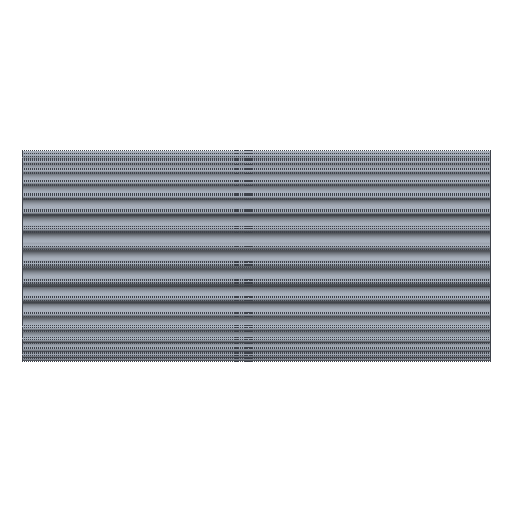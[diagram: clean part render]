
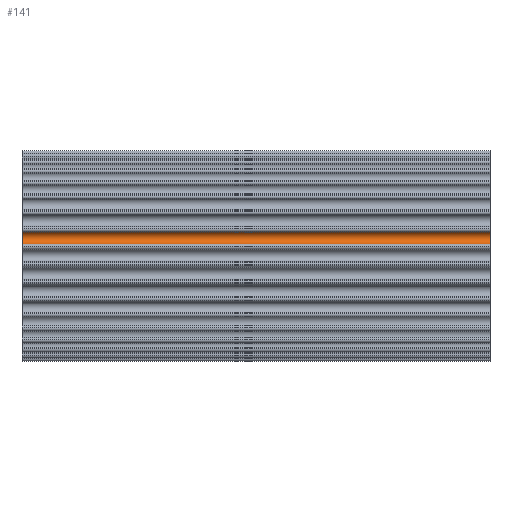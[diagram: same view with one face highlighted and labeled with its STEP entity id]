
A CAD part, top view. The second image highlights one B-rep face of the part: STEP entity #141.
In plain terms, the highlighted cylindrical face has radius 2.629 mm (diameter 5.258 mm), a partial arc.
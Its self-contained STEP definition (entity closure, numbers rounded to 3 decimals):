
#141 = ADVANCED_FACE( '', ( #426 ), #427, .F. );
#426 = FACE_OUTER_BOUND( '', #862, .T. );
#427 = CYLINDRICAL_SURFACE( '', #863, 2.629 );
#862 = EDGE_LOOP( '', ( #2052, #2053, #2054, #2055 ) );
#863 = AXIS2_PLACEMENT_3D( '', #2056, #2057, #2058 );
#2052 = ORIENTED_EDGE( '', *, *, #3389, .T. );
#2053 = ORIENTED_EDGE( '', *, *, #3619, .F. );
#2054 = ORIENTED_EDGE( '', *, *, #3292, .F. );
#2055 = ORIENTED_EDGE( '', *, *, #3618, .T. );
#2056 = CARTESIAN_POINT( '', ( 0., 7.671, 43.504 ) );
#2057 = DIRECTION( '', ( -1., 0., 0. ) );
#2058 = DIRECTION( '', ( 0., 0.985, -0.174 ) );
#3292 = EDGE_CURVE( '', #4112, #4114, #4115, .T. );
#3389 = EDGE_CURVE( '', #4302, #4300, #4303, .T. );
#3618 = EDGE_CURVE( '', #4112, #4302, #4698, .T. );
#3619 = EDGE_CURVE( '', #4114, #4300, #4699, .T. );
#4112 = VERTEX_POINT( '', #5253 );
#4114 = VERTEX_POINT( '', #5256 );
#4115 = CIRCLE( '', #5257, 2.629 );
#4300 = VERTEX_POINT( '', #5477 );
#4302 = VERTEX_POINT( '', #5480 );
#4303 = CIRCLE( '', #5481, 2.629 );
#4698 = LINE( '', #5992, #5993 );
#4699 = LINE( '', #5994, #5995 );
#5253 = CARTESIAN_POINT( '', ( 0., 5.047, 43.345 ) );
#5256 = CARTESIAN_POINT( '', ( 0., 10.083, 42.457 ) );
#5257 = AXIS2_PLACEMENT_3D( '', #6688, #6689, #6690 );
#5477 = CARTESIAN_POINT( '', ( 200., 10.083, 42.457 ) );
#5480 = CARTESIAN_POINT( '', ( 200., 5.047, 43.345 ) );
#5481 = AXIS2_PLACEMENT_3D( '', #6907, #6908, #6909 );
#5992 = CARTESIAN_POINT( '', ( 0., 5.047, 43.345 ) );
#5993 = VECTOR( '', #7362, 1000. );
#5994 = CARTESIAN_POINT( '', ( 0., 10.083, 42.457 ) );
#5995 = VECTOR( '', #7363, 1000. );
#6688 = CARTESIAN_POINT( '', ( 0., 7.671, 43.504 ) );
#6689 = DIRECTION( '', ( 1., 0., 0. ) );
#6690 = DIRECTION( '', ( 0., 0.985, -0.174 ) );
#6907 = CARTESIAN_POINT( '', ( 200., 7.671, 43.504 ) );
#6908 = DIRECTION( '', ( 1., 0., 0. ) );
#6909 = DIRECTION( '', ( 0., 0.985, -0.174 ) );
#7362 = DIRECTION( '', ( 1., 0., 0. ) );
#7363 = DIRECTION( '', ( 1., 0., 0. ) );
